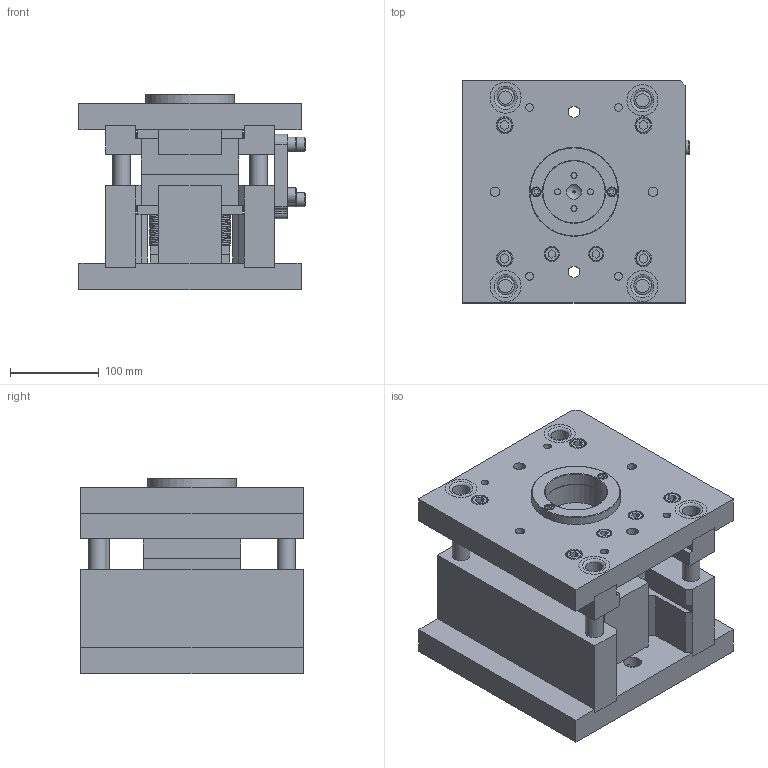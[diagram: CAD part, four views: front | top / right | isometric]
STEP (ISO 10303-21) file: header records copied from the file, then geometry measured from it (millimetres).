
FILE_DESCRIPTION(/* description */ (''),/* implementation_level */ '2;1');
FILE_NAME(/* name */ '万能模架.stp',/* time_stamp */ '2018-09-03T14:03:23+08:00',/* author */ (''),/* organization */ (''),/* preprocessor_version */ 'ST-DEVELOPER v16',/* originating_system */ 'SIEMENS PLM Software NX 10.0',/* authorisation */ '');
FILE_SCHEMA (('AP203_CONFIGURATION_CONTROLLED_3D_DESIGN_OF_MECHANICAL_PARTS_AND_ASSEMBLIES_MIM_LF { 1 0 10303 403 2 1 2}'));
Length unit declared in the file: millimetre
Products named in the file (1): Admi176C8BCBgdga
Bounding box: 254.5 x 250 x 219.99 mm (x, y, z)
Volume: 7582892 mm3; surface area: 1079847.6 mm2
Topology: 71 solids, 71 shells, 1451 faces, 3442 edges, 2315 vertices
Faces by surface type: plane 885, cylinder 338, extrusion 109, cone 84, bspline 22, torus 12, sphere 1
Full cylindrical faces by diameter (mm): 4.3 x4, 5 x4, 5.4 x1, 5.5 x4, 6 x41, 6.5 x23, 6.8 x8, 7 x3, 8 x6, 8.7 x8, 8.8 x4, 9 x6, 10 x33, 10.8 x8, 11 x17, 12 x30, 13 x12, 16 x12, 17 x4, 18 x8, 19 x8, 19.8 x2, 20 x18, 25 x4, 26 x4, 30 x12, 35 x8, 41.8 x1, 70 x2, 100 x1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
Entity records: 46995 total; most frequent: CARTESIAN_POINT 16645, DIRECTION 5801, ORIENTED_EDGE 5560, EDGE_CURVE 2780, EDGE_LOOP 2173, VERTEX_POINT 2075, AXIS2_PLACEMENT_3D 2008, VECTOR 1785
